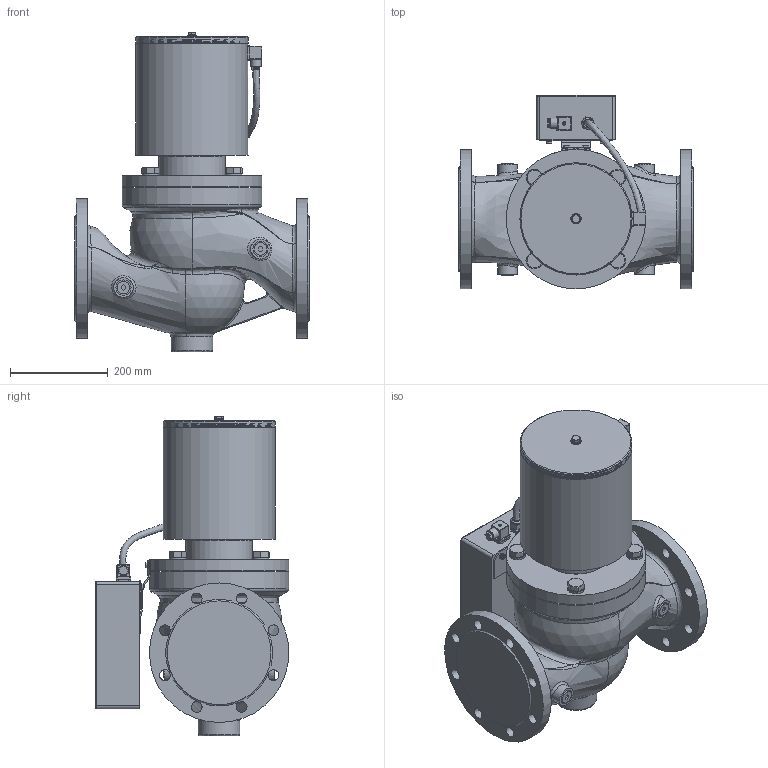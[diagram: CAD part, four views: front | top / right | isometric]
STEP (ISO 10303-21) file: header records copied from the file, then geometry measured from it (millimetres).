
FILE_DESCRIPTION((''),'2;1');
FILE_NAME('G:\CAD-Download\EVA\05-EVA\DN 150\05-EVA 150H-Av.stp','2010-10-20T14:04:48',('da'),(''),'Autodesk Inventor 2008','Autodesk Inventor 2008','');
FILE_SCHEMA(('AUTOMOTIVE_DESIGN { 1 0 10303 214 1 1 1 1 }'));
Length unit declared in the file: millimetre
Products named in the file (1): Bauteil4
Bounding box: 480 x 396 x 653.5 mm (x, y, z)
Volume: 37386470.7 mm3; surface area: 1241910.9 mm2
Topology: 1 solids, 1 shells, 674 faces, 1716 edges, 1072 vertices
Faces by surface type: plane 341, cylinder 131, bspline 116, cone 56, torus 20, sphere 10
Full cylindrical faces by diameter (mm): 5.5 x2, 6 x4, 6.4 x2, 6.9 x2, 8.88 x2, 10 x1, 14 x2, 14.63 x1, 20 x9, 21 x1, 21.5 x2, 22 x8, 23.713 x1, 26 x4, 28 x4, 31 x2, 40 x2, 85 x1, 120 x1, 136 x1, 203.5 x1, 225 x1, 226 x3, 226.3 x1, 229 x2, 285 x3
Entity records: 41553 total; most frequent: CARTESIAN_POINT 26090, ORIENTED_EDGE 3080, DIRECTION 2879, EDGE_CURVE 1540, AXIS2_PLACEMENT_3D 1088, VERTEX_POINT 1020, EDGE_LOOP 894, VECTOR 703
